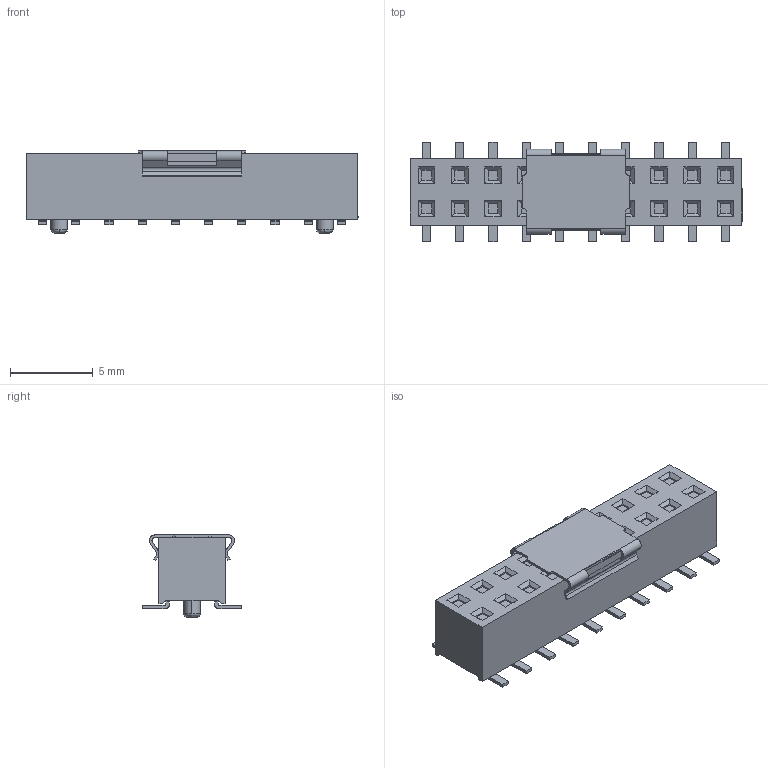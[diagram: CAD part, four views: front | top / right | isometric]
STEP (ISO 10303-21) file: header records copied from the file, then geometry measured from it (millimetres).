
FILE_DESCRIPTION (( 'STEP AP214' ), '1' );
FILE_NAME ('2143-A2X10G00DPT-M.STEP', '2017-08-26T05:25:00', ( '' ), ( '' ), 'SwSTEP 2.0', 'SolidWorks 2015', '' );
FILE_SCHEMA (( 'AUTOMOTIVE_DESIGN' ));
Length unit declared in the file: millimetre
Products named in the file (26): 2143-PIN-D_; 2143-A2X10sujiao; 2146-M; 2143-A2X10G00DPT-M
Assembly tree (22 placements, depth 2):
  2143-PIN-D_
  2143-PIN-D_
  2143-PIN-D_
  2143-A2X10G00DPT-M
    2143-A2X10sujiao
    2143-PIN-D_  x20
    2146-M
  2143-PIN-D_
Bounding box: 20 x 6 x 4.95 mm (x, y, z)
Volume: 315.2 mm3; surface area: 531.1 mm2
Topology: 42 solids, 42 shells, 646 faces, 1552 edges, 1008 vertices
Faces by surface type: plane 542, cylinder 100, bspline 4
Entity records: 8137 total; most frequent: CARTESIAN_POINT 1416, ORIENTED_EDGE 1280, DIRECTION 1268, EDGE_CURVE 640, LINE 572, VECTOR 572, VERTEX_POINT 400, AXIS2_PLACEMENT_3D 348
